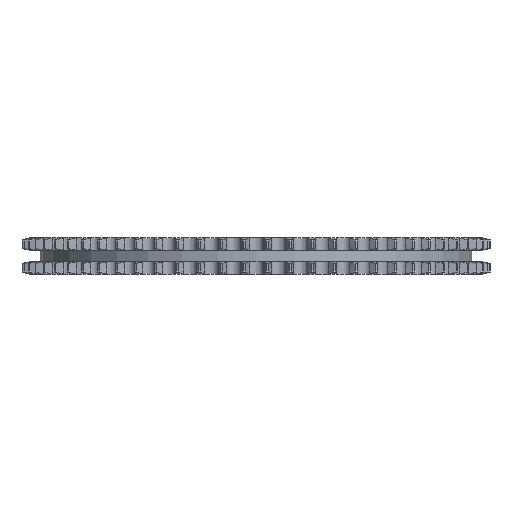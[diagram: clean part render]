
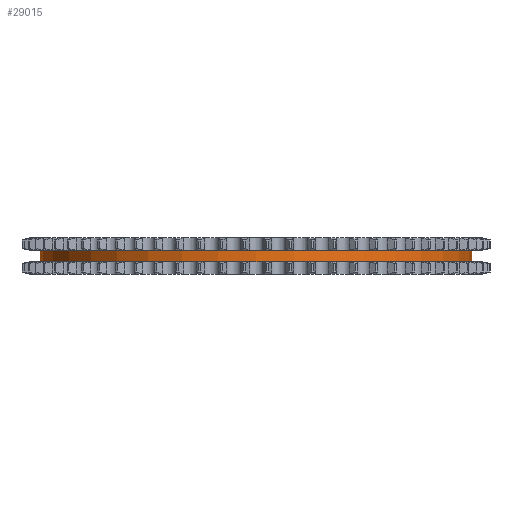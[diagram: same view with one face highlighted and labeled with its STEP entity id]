
A CAD part, left-side view. The second image highlights one B-rep face of the part: STEP entity #29015.
In plain terms, the highlighted cylindrical face has radius 91.06 mm (diameter 182.12 mm), a partial arc.
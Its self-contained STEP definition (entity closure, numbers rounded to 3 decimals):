
#5788=DIRECTION('',(0.,0.,-1.));
#5789=VECTOR('',#5788,4.8);
#5790=CARTESIAN_POINT('',(0.,91.06,2.4));
#5791=LINE('',#5790,#5789);
#5795=CARTESIAN_POINT('',(0.,0.,2.4));
#5796=DIRECTION('',(0.,0.,1.));
#5797=DIRECTION('',(0.,1.,0.));
#5798=AXIS2_PLACEMENT_3D('',#5795,#5796,#5797);
#5803=DIRECTION('',(0.,0.,-1.));
#5804=VECTOR('',#5803,4.8);
#5805=CARTESIAN_POINT('',(0.,-91.06,2.4));
#5806=LINE('',#5805,#5804);
#5810=CARTESIAN_POINT('',(0.,0.,-2.4));
#5811=DIRECTION('',(0.,0.,1.));
#5812=DIRECTION('',(0.,1.,0.));
#5813=AXIS2_PLACEMENT_3D('',#5810,#5811,#5812);
#23268=CARTESIAN_POINT('',(0.,91.06,2.4));
#23269=CARTESIAN_POINT('',(0.,91.06,-2.4));
#23270=VERTEX_POINT('',#23268);
#23271=VERTEX_POINT('',#23269);
#23272=CARTESIAN_POINT('',(0.,-91.06,2.4));
#23273=CARTESIAN_POINT('',(0.,-91.06,-2.4));
#23274=VERTEX_POINT('',#23272);
#23275=VERTEX_POINT('',#23273);
#29003=CARTESIAN_POINT('',(0.,0.,2.64));
#29004=DIRECTION('',(0.,0.,-1.));
#29005=DIRECTION('',(0.,-1.,0.));
#29006=AXIS2_PLACEMENT_3D('',#29003,#29004,#29005);
#29007=CYLINDRICAL_SURFACE('',#29006,91.06);
#29008=ORIENTED_EDGE('',*,*,#28993,.F.);
#29009=ORIENTED_EDGE('',*,*,#28983,.T.);
#29010=ORIENTED_EDGE('',*,*,#28997,.T.);
#29012=ORIENTED_EDGE('',*,*,#29011,.F.);
#29013=EDGE_LOOP('',(#29008,#29009,#29010,#29012));
#29014=FACE_OUTER_BOUND('',#29013,.F.);
#29015=ADVANCED_FACE('',(#29014),#29007,.T.);
#5799=CIRCLE('',#5798,91.06);
#5814=CIRCLE('',#5813,91.06);
#28983=EDGE_CURVE('',#23270,#23274,#5799,.T.);
#28993=EDGE_CURVE('',#23270,#23271,#5791,.T.);
#28997=EDGE_CURVE('',#23274,#23275,#5806,.T.);
#29011=EDGE_CURVE('',#23271,#23275,#5814,.T.);
